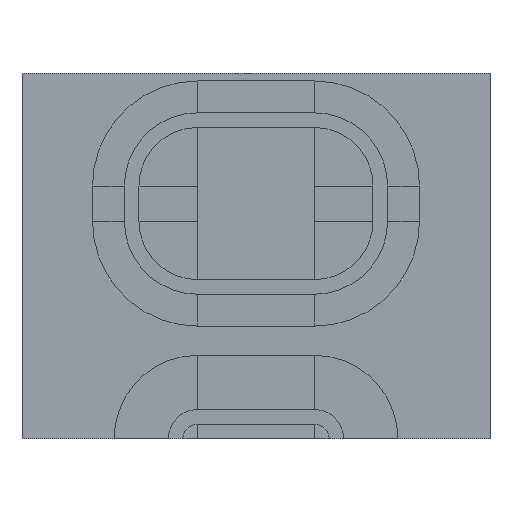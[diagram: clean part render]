
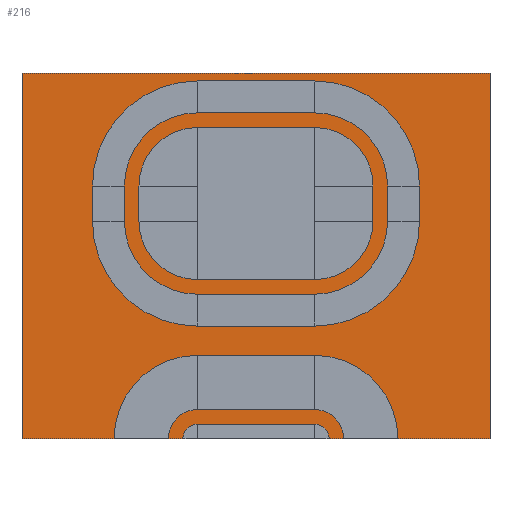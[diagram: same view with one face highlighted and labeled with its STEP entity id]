
A CAD part, front view. The second image highlights one B-rep face of the part: STEP entity #216.
In plain terms, the highlighted planar face has unit normal (0, -1, 0).
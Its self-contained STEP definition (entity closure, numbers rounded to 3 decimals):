
#216=ADVANCED_FACE('',(#345),#346,.T.);
#345=FACE_OUTER_BOUND('',#597,.T.);
#346=PLANE('',#598);
#597=EDGE_LOOP('',(#859,#860,#861,#862));
#598=AXIS2_PLACEMENT_3D('',#863,#864,#865);
#859=ORIENTED_EDGE('',*,*,#1722,.T.);
#860=ORIENTED_EDGE('',*,*,#1723,.F.);
#861=ORIENTED_EDGE('',*,*,#1724,.F.);
#862=ORIENTED_EDGE('',*,*,#1720,.T.);
#863=CARTESIAN_POINT('',(0.0,73.9,0.0));
#864=DIRECTION('',(0.0,-1.0,0.0));
#865=DIRECTION('',(1.0,0.0,-0.0));
#1720=EDGE_CURVE('',#1971,#1969,#1972,.T.);
#1722=EDGE_CURVE('',#1969,#1974,#1975,.T.);
#1723=EDGE_CURVE('',#1976,#1974,#1977,.T.);
#1724=EDGE_CURVE('',#1971,#1976,#1978,.T.);
#1969=VERTEX_POINT('',#2381);
#1971=VERTEX_POINT('',#2384);
#1972=LINE('',#2385,#2386);
#1974=VERTEX_POINT('',#2389);
#1975=LINE('',#2390,#2391);
#1976=VERTEX_POINT('',#2392);
#1977=LINE('',#2393,#2394);
#1978=LINE('',#2395,#2396);
#2381=CARTESIAN_POINT('',(80.0,73.9,125.0));
#2384=CARTESIAN_POINT('',(80.0,73.9,0.0));
#2385=CARTESIAN_POINT('',(80.0,73.9,0.0));
#2386=VECTOR('',#2998,1.0);
#2389=CARTESIAN_POINT('',(-80.0,73.9,125.0));
#2390=CARTESIAN_POINT('',(80.0,73.9,125.0));
#2391=VECTOR('',#3000,1.0);
#2392=CARTESIAN_POINT('',(-80.0,73.9,0.0));
#2393=CARTESIAN_POINT('',(-80.0,73.9,0.0));
#2394=VECTOR('',#3001,1.0);
#2395=CARTESIAN_POINT('',(80.0,73.9,0.0));
#2396=VECTOR('',#3002,1.0);
#2998=DIRECTION('',(0.0,0.0,1.0));
#3000=DIRECTION('',(-1.0,0.0,0.0));
#3001=DIRECTION('',(0.0,0.0,1.0));
#3002=DIRECTION('',(-1.0,0.0,0.0));
